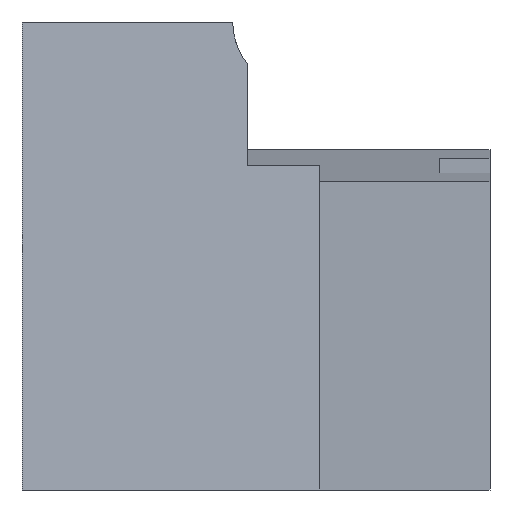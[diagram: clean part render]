
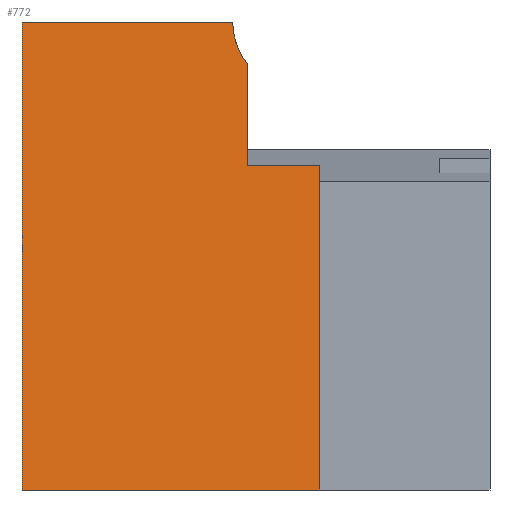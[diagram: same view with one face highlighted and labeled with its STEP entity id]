
A CAD part, front view. The second image highlights one B-rep face of the part: STEP entity #772.
In plain terms, the highlighted planar face has unit normal (0, -0.995, 0.105).
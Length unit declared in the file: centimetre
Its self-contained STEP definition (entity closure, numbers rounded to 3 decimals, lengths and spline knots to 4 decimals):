
#7 = EDGE_CURVE ( 'NONE', #429, #441, #148, .T. ) ;
#13 = DIRECTION ( 'NONE',  ( -1., 0., 0. ) ) ;
#28 = VECTOR ( 'NONE', #281, 100. ) ;
#40 = ORIENTED_EDGE ( 'NONE', *, *, #612, .F. ) ;
#45 = VECTOR ( 'NONE', #13, 100. ) ;
#66 = LINE ( 'NONE', #737, #485 ) ;
#90 = VECTOR ( 'NONE', #486, 100. ) ;
#93 = VERTEX_POINT ( 'NONE', #695 ) ;
#98 = VERTEX_POINT ( 'NONE', #397 ) ;
#138 = DIRECTION ( 'NONE',  ( -1., 0., 0. ) ) ;
#142 = LINE ( 'NONE', #706, #90 ) ;
#148 = LINE ( 'NONE', #426, #28 ) ;
#165 = ORIENTED_EDGE ( 'NONE', *, *, #689, .F. ) ;
#167 = CARTESIAN_POINT ( 'NONE',  ( 636.7191, 280.4471, 1000. ) ) ;
#169 = FACE_OUTER_BOUND ( 'NONE', #717, .T. ) ;
#186 = VECTOR ( 'NONE', #721, 100. ) ;
#203 = CARTESIAN_POINT ( 'NONE',  ( 636.7191, 280.4471, 1000. ) ) ;
#207 = CARTESIAN_POINT ( 'NONE',  ( 480.99, 271.113, 911.348 ) ) ;
#219 = ORIENTED_EDGE ( 'NONE', *, *, #7, .F. ) ;
#226 = PLANE ( 'NONE',  #501 ) ;
#256 = DIRECTION ( 'NONE',  ( 0., -0.105, -0.995 ) ) ;
#263 = CARTESIAN_POINT ( 'NONE',  ( 636.7191, 248.0536, 692.3391 ) ) ;
#281 = DIRECTION ( 'NONE',  ( 0., -0.105, -0.995 ) ) ;
#301 = ORIENTED_EDGE ( 'NONE', *, *, #625, .F. ) ;
#312 = ORIENTED_EDGE ( 'NONE', *, *, #371, .T. ) ;
#346 = LINE ( 'NONE', #622, #864 ) ;
#371 = EDGE_CURVE ( 'NONE', #98, #591, #66, .T. ) ;
#376 = LINE ( 'NONE', #859, #186 ) ;
#381 = ORIENTED_EDGE ( 'NONE', *, *, #655, .T. ) ;
#397 = CARTESIAN_POINT ( 'NONE',  ( 0., 280.4471, 1000. ) ) ;
#426 = CARTESIAN_POINT ( 'NONE',  ( 636.7191, 280.4471, 1000. ) ) ;
#429 = VERTEX_POINT ( 'NONE', #263 ) ;
#441 = VERTEX_POINT ( 'NONE', #492 ) ;
#485 = VECTOR ( 'NONE', #256, 100. ) ;
#486 = DIRECTION ( 'NONE',  ( 0., -0.105, -0.995 ) ) ;
#492 = CARTESIAN_POINT ( 'NONE',  ( 636.7191, 175.1575, 0. ) ) ;
#501 = AXIS2_PLACEMENT_3D ( 'NONE', #167, #719, #580 ) ;
#535 = CARTESIAN_POINT ( 'NONE',  ( 480.99, 248.0536, 692.3391 ) ) ;
#560 = CARTESIAN_POINT ( 'NONE',  ( 450.1279, 280.4471, 1000. ) ) ;
#580 = DIRECTION ( 'NONE',  ( 0., 0.105, 0.995 ) ) ;
#591 = VERTEX_POINT ( 'NONE', #626 ) ;
#612 = EDGE_CURVE ( 'NONE', #642, #862, #142, .T. ) ;
#622 = CARTESIAN_POINT ( 'NONE',  ( 636.7191, 175.1575, 0. ) ) ;
#625 = EDGE_CURVE ( 'NONE', #93, #642, #662, .T. ) ;
#626 = CARTESIAN_POINT ( 'NONE',  ( 0., 175.1575, 0. ) ) ;
#639 = LINE ( 'NONE', #203, #45 ) ;
#640 = ORIENTED_EDGE ( 'NONE', *, *, #704, .F. ) ;
#642 = VERTEX_POINT ( 'NONE', #843 ) ;
#655 = EDGE_CURVE ( 'NONE', #93, #98, #639, .T. ) ;
#662 =( BOUNDED_CURVE ( )  B_SPLINE_CURVE ( 3, ( #560, #834, #693, #207 ),
 .UNSPECIFIED., .F., .F. ) 
 B_SPLINE_CURVE_WITH_KNOTS ( ( 4, 4 ),
 ( 1.5708, 2.2408 ),
 .UNSPECIFIED. ) 
 CURVE ( )  GEOMETRIC_REPRESENTATION_ITEM ( )  RATIONAL_B_SPLINE_CURVE ( ( 1., 0.963, 0.963, 1. ) ) 
 REPRESENTATION_ITEM ( '' )  );
#689 = EDGE_CURVE ( 'NONE', #441, #591, #346, .T. ) ;
#693 = CARTESIAN_POINT ( 'NONE',  ( 460.8112, 273.7947, 936.8176 ) ) ;
#695 = CARTESIAN_POINT ( 'NONE',  ( 450.1279, 280.4471, 1000. ) ) ;
#704 = EDGE_CURVE ( 'NONE', #862, #429, #376, .T. ) ;
#706 = CARTESIAN_POINT ( 'NONE',  ( 480.99, 173.2371, -18.2401 ) ) ;
#717 = EDGE_LOOP ( 'NONE', ( #381, #312, #165, #219, #640, #40, #301 ) ) ;
#719 = DIRECTION ( 'NONE',  ( 0., 0.995, -0.105 ) ) ;
#721 = DIRECTION ( 'NONE',  ( 1., 0., 0. ) ) ;
#737 = CARTESIAN_POINT ( 'NONE',  ( 0., 280.4471, 1000. ) ) ;
#772 = ADVANCED_FACE ( 'NONE', ( #169 ), #226, .F. ) ;
#834 = CARTESIAN_POINT ( 'NONE',  ( 450.1279, 277.0258, 967.5056 ) ) ;
#843 = CARTESIAN_POINT ( 'NONE',  ( 480.99, 271.113, 911.348 ) ) ;
#859 = CARTESIAN_POINT ( 'NONE',  ( 480.99, 248.0536, 692.3391 ) ) ;
#862 = VERTEX_POINT ( 'NONE', #535 ) ;
#864 = VECTOR ( 'NONE', #138, 100. ) ;
